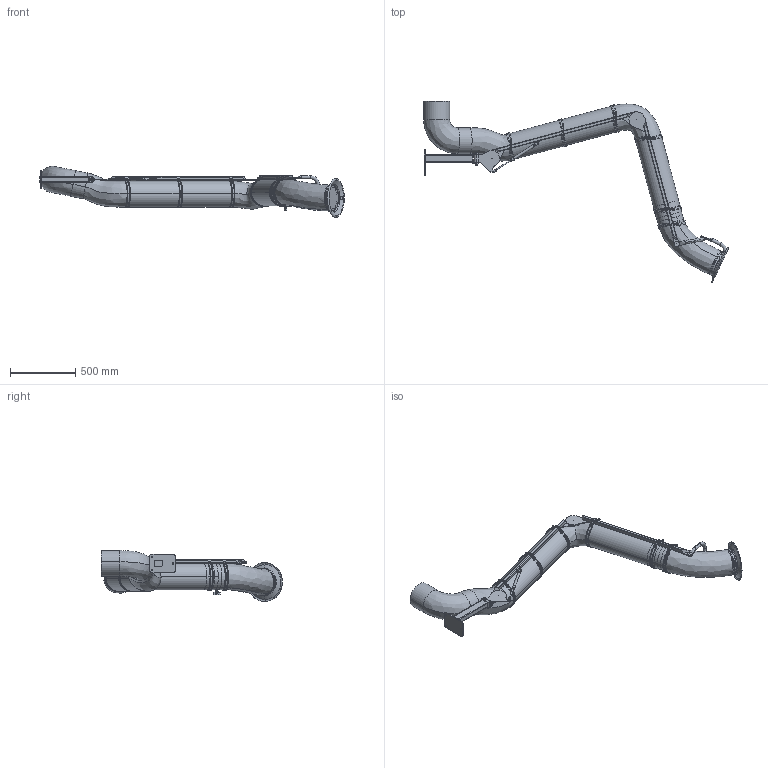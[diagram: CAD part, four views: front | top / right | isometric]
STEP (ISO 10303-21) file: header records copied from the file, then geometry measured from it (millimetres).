
FILE_DESCRIPTION((''),'2;1');
FILE_NAME('PSR_3000-200_D_EXD','2022-10-04T13:20:56',('Tomas Bellgran'),(''),'CREO PARAMETRIC BY PTC INC, 2018260','CREO PARAMETRIC BY PTC INC, 2018260','');
FILE_SCHEMA(('AUTOMOTIVE_DESIGN { 1 0 10303 214 1 1 1 1 }'));
Length unit declared in the file: millimetre
Products named in the file (44): 141558; 141580; 141581; 122701; 141514; 141560; 141582; 141587; 141524; 121391; 131150; 139383; 131151; 131173; 144356; 141589; 134343_AF0; G_P136_WELD-REF; 141590; 122717_LIGHT; 120127_COMPL_LIGHT; 130317; ROD_STAB_8-160-REF; 131095; 130322_AF33; 131145; 139617; 139618; 139616; 139615; 139614; 139620; 131208; 122291; 122295; 131218; 131219; 131223; 131203; 141627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
Assembly tree (61 placements, depth 4):
  PSR_3000-200_D_EXD
    141514
      141558
      141580
      141581
      122701
    141524
      141560
      141582
      141587
    121391  x4
    131150
    131173
      139383
      131151
    144356  x2
    141590
      141589
      134343_AF0
      G_P136_WELD-REF
    122717_LIGHT
    120127_COMPL_LIGHT
    130322_AF33
      130317
      ROD_STAB_8-160-REF
      131095  x2
    131145  x2
    139620
      139617  x3
      139618
      139616
      139615
      139614
    131203
      131208
      122295
        122291
      131223
        131218
        131219
    141627
    121084
    124460  x6
    107526-11  x6
Bounding box: 2337.02 x 1388.34 x 392.83 mm (x, y, z)
Volume: 104628530.6 mm3; surface area: 3176231 mm2
Topology: 52 solids, 52 shells, 1198 faces, 2856 edges, 1761 vertices
Faces by surface type: plane 436, cylinder 364, bspline 234, torus 76, cone 56, extrusion 17, revolution 13, sphere 2
Entity records: 41922 total; most frequent: CARTESIAN_POINT 14960, DIRECTION 3422, ORIENTED_EDGE 3114, PRESENTATION_STYLE_ASSIGNMENT 2192, STYLED_ITEM 2165, CURVE_STYLE 1577, EDGE_CURVE 1557, AXIS2_PLACEMENT_3D 1361
